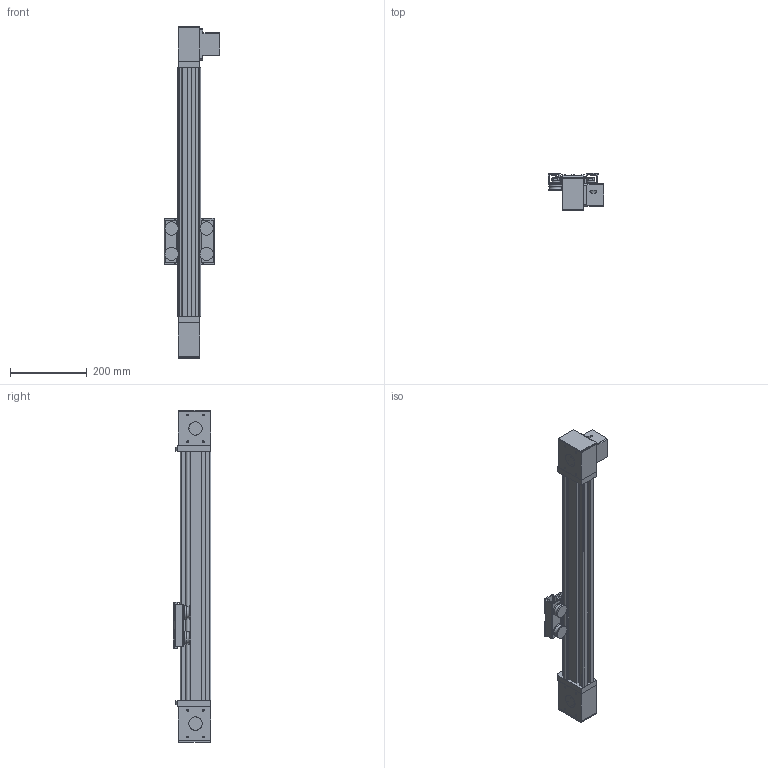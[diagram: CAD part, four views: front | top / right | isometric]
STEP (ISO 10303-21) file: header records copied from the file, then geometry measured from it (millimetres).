
FILE_DESCRIPTION (( 'STEP AP214' ), '1' );
FILE_NAME ('BLS4080A.STEP', '2021-07-12T00:08:52', ( '' ), ( '' ), 'SwSTEP 2.0', 'SolidWorks 2019', '' );
FILE_SCHEMA (( 'AUTOMOTIVE_DESIGN' ));
Length unit declared in the file: millimetre
Products named in the file (7): BLS4080A儌乕僞僇僢僾; BLS4080Aレール1; BLS4080Aキャリッジ; BLS4080A_ﾍﾞｱﾘﾝｸﾞｶﾊﾞｰ; BLS4080Aケース5; BLS4080Aケース3; BLS4080A
Assembly tree (8 placements, depth 2):
  BLS4080A
    BLS4080Aレール1
    BLS4080Aケース5
    BLS4080Aケース3
    BLS4080A儌乕僞僇僢僾
    BLS4080Aキャリッジ
    BLS4080A_ﾍﾞｱﾘﾝｸﾞｶﾊﾞｰ  x3
Bounding box: 145 x 98 x 866 mm (x, y, z)
Volume: 2326233.2 mm3; surface area: 810643.6 mm2
Topology: 18 solids, 18 shells, 678 faces, 1658 edges, 1070 vertices
Faces by surface type: plane 424, cylinder 158, cone 92, torus 4
Full cylindrical faces by diameter (mm): 4.2 x16, 4.917 x4, 5.5 x8, 8 x1, 8.8 x4, 9.5 x4, 10 x4, 10.106 x4, 10.5 x2, 11 x4, 12 x9, 17 x4, 18 x4, 21 x4, 24 x3, 30 x1, 35 x13, 50 x1
Entity records: 19275 total; most frequent: CARTESIAN_POINT 3540, DIRECTION 3091, ORIENTED_EDGE 2926, EDGE_CURVE 1463, AXIS2_PLACEMENT_3D 1056, VERTEX_POINT 1021, VECTOR 979, LINE 979
